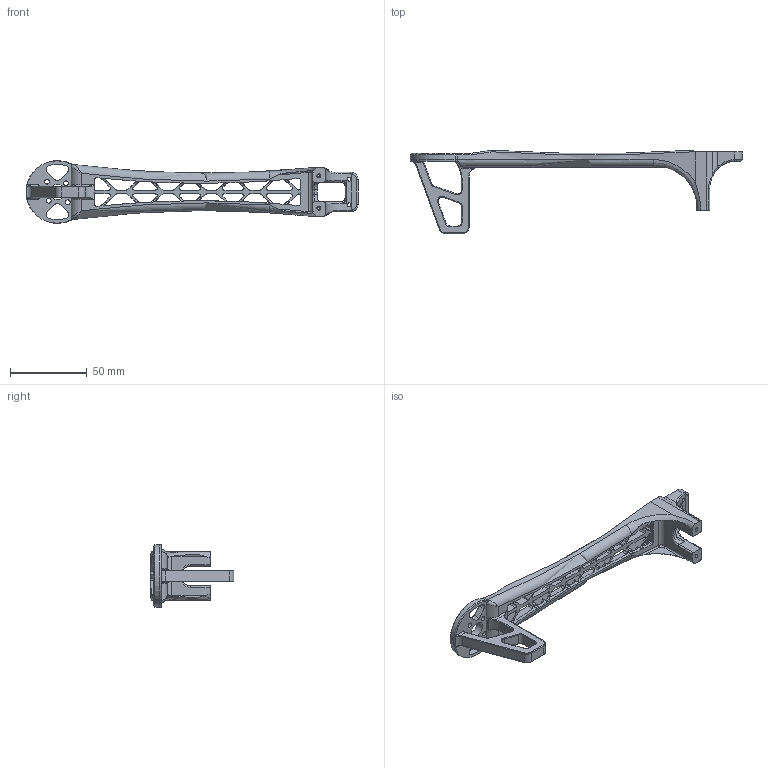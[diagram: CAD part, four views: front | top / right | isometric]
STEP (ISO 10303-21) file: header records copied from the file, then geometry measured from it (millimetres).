
FILE_DESCRIPTION(/* description */ ('STEP AP203'),/* implementation_level */ '2;1');
FILE_NAME(/* name */ 'C:\Users\Brayo\Documents\Kipepeo\CAD\Prototype\Frame\F450-MODEL\F450 Arm.stp',/* time_stamp */ '2025-10-07T18:02:29+03:00',/* author */ ('Brayo'),/* organization */ (''),/* preprocessor_version */ 'ST-DEVELOPER v20',/* originating_system */ 'Autodesk Inventor 2022',/* authorisation */ '');
FILE_SCHEMA (('AUTOMOTIVE_DESIGN { 1 0 10303 214 3 1 1 }'));
Length unit declared in the file: millimetre
Products named in the file (1): F450 Arm
Bounding box: 216 x 54.25 x 40.74 mm (x, y, z)
Volume: 37065.6 mm3; surface area: 26562.2 mm2
Topology: 1 solids, 1 shells, 568 faces, 1549 edges, 916 vertices
Faces by surface type: cylinder 256, plane 143, bspline 79, torus 69, cone 21
Full cylindrical faces by diameter (mm): 2.5 x6, 3.1 x4, 10 x1
Entity records: 29755 total; most frequent: CARTESIAN_POINT 16083, ORIENTED_EDGE 3012, DIRECTION 2722, EDGE_CURVE 1506, AXIS2_PLACEMENT_3D 1048, VERTEX_POINT 916, LINE 626, VECTOR 626
